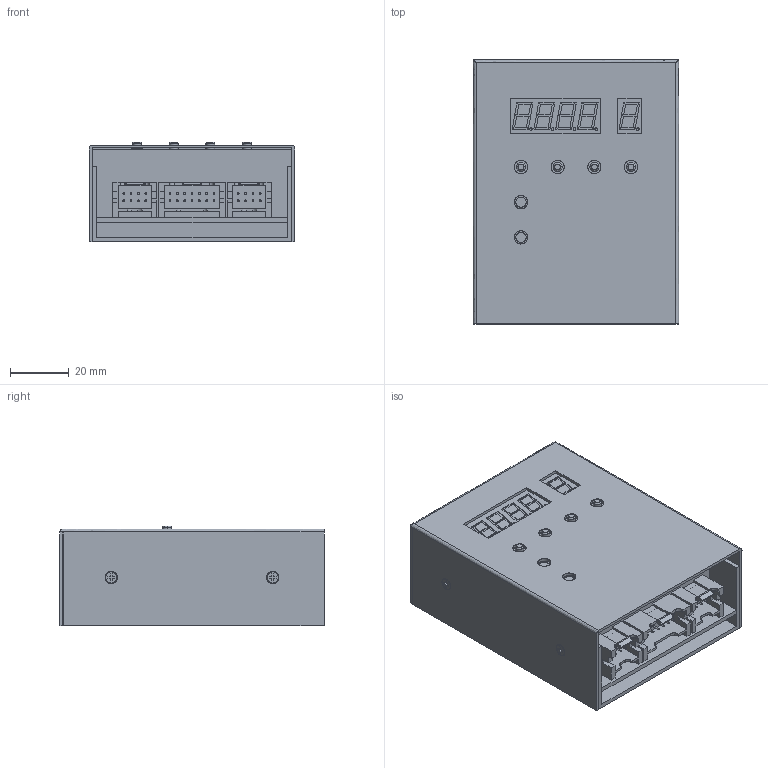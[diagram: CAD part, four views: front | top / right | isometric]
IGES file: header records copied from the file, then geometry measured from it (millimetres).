
Start section: SolidWorks IGES file using analytic representation for surfaces
Global section: file name: C:\Documents and Settings\7677\デスクトップ\PDSA-UT.IGS; native system: SolidWorks 2009; preprocessor: SolidWorks 2009; author: 7677; date: 120625.143134; units: millimetre
Bounding box: 70 x 90 x 34 mm (x, y, z)
Surface area: 57040.3 mm2 (no closed solid volume)
Topology: 0 solids, 0 shells, 630 faces, 5806 edges, 5806 vertices
Faces by surface type: bspline 481, revolution 149
